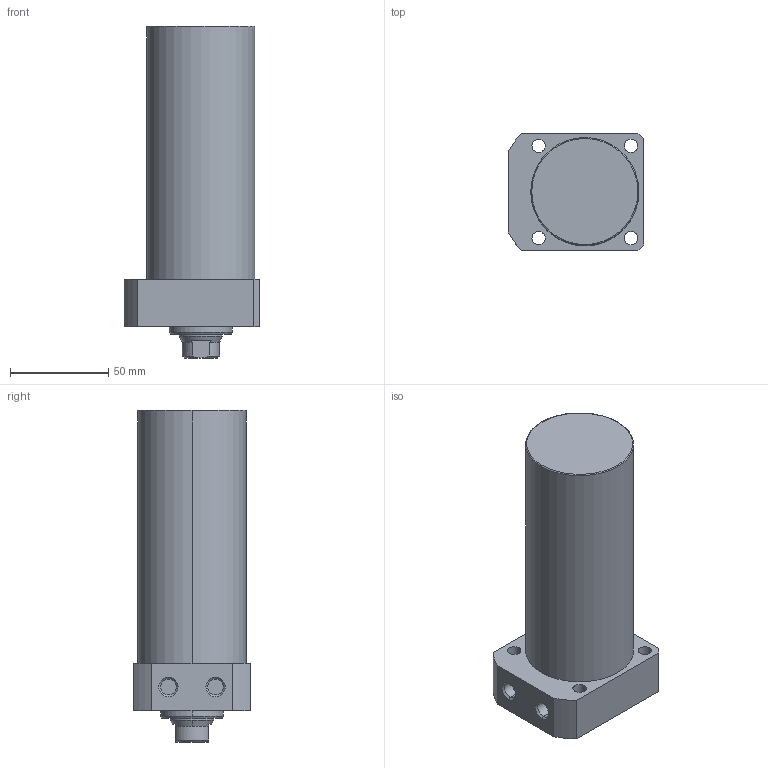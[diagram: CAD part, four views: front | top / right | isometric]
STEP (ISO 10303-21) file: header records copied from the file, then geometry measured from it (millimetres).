
FILE_DESCRIPTION (( 'STEP AP203' ), '1' );
FILE_NAME ('CLLR055-CA-0100.STEP', '2017-05-16T03:38:56', ( '' ), ( '' ), 'SwSTEP 2.0', 'SolidWorks 2015', '' );
FILE_SCHEMA (( 'CONFIG_CONTROL_DESIGN' ));
Length unit declared in the file: millimetre
Products named in the file (1): CLLR055-CA-0100
Bounding box: 69 x 60 x 169 mm (x, y, z)
Volume: 404109.5 mm3; surface area: 40576.6 mm2
Topology: 1 solids, 1 shells, 65 faces, 150 edges, 93 vertices
Faces by surface type: cylinder 29, plane 19, cone 15, torus 2
Entity records: 1959 total; most frequent: DIRECTION 348, CARTESIAN_POINT 347, ORIENTED_EDGE 296, EDGE_CURVE 148, AXIS2_PLACEMENT_3D 142, VERTEX_POINT 93, EDGE_LOOP 81, CIRCLE 76
